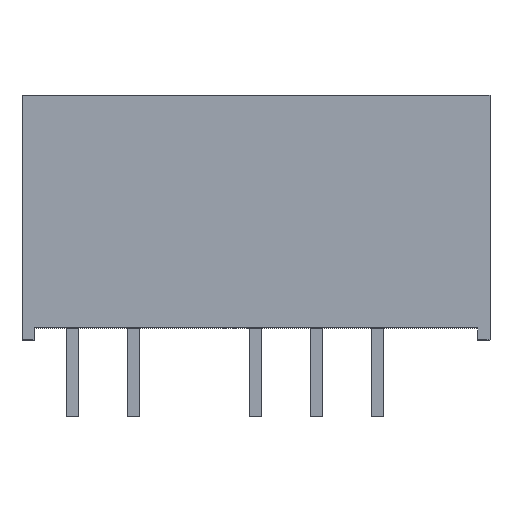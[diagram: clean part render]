
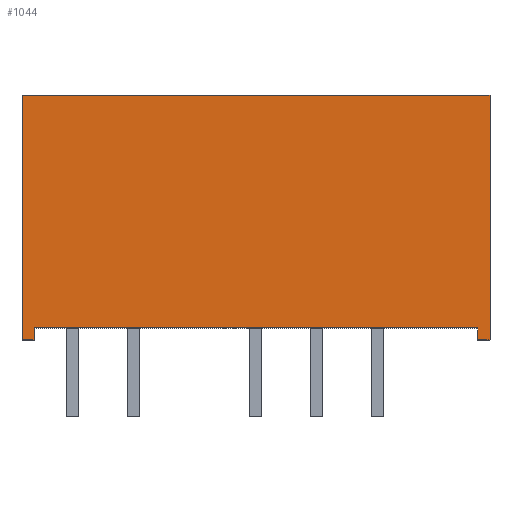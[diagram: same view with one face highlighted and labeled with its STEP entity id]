
A CAD part, top view. The second image highlights one B-rep face of the part: STEP entity #1044.
In plain terms, the highlighted planar face has unit normal (0, 0, 1).
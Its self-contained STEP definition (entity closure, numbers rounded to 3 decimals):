
#34 = LINE ( 'NONE', #604, #315 ) ;
#51 = VECTOR ( 'NONE', #846, 1000. ) ;
#64 = CARTESIAN_POINT ( 'NONE',  ( 9.75, -0.5, 3.55 ) ) ;
#74 = ORIENTED_EDGE ( 'NONE', *, *, #814, .T. ) ;
#81 = ORIENTED_EDGE ( 'NONE', *, *, #305, .T. ) ;
#82 = DIRECTION ( 'NONE',  ( 0., -1., 0. ) ) ;
#92 = ORIENTED_EDGE ( 'NONE', *, *, #1072, .F. ) ;
#113 = VERTEX_POINT ( 'NONE', #195 ) ;
#119 = EDGE_LOOP ( 'NONE', ( #592, #577, #81, #74, #551, #92, #941, #909 ) ) ;
#139 = CARTESIAN_POINT ( 'NONE',  ( -9.25, 0., 3.55 ) ) ;
#144 = EDGE_CURVE ( 'NONE', #454, #686, #34, .T. ) ;
#161 = CARTESIAN_POINT ( 'NONE',  ( -9.75, 0., 3.55 ) ) ;
#190 = LINE ( 'NONE', #369, #51 ) ;
#195 = CARTESIAN_POINT ( 'NONE',  ( 9.25, 0., 3.55 ) ) ;
#197 = VERTEX_POINT ( 'NONE', #435 ) ;
#206 = CARTESIAN_POINT ( 'NONE',  ( -9.25, -0.5, 3.55 ) ) ;
#215 = EDGE_CURVE ( 'NONE', #876, #113, #230, .T. ) ;
#226 = DIRECTION ( 'NONE',  ( 0., 1., 0. ) ) ;
#230 = LINE ( 'NONE', #550, #717 ) ;
#242 = VERTEX_POINT ( 'NONE', #139 ) ;
#305 = EDGE_CURVE ( 'NONE', #541, #242, #960, .T. ) ;
#315 = VECTOR ( 'NONE', #366, 1000. ) ;
#328 = VECTOR ( 'NONE', #1051, 1000. ) ;
#343 = LINE ( 'NONE', #161, #790 ) ;
#359 = FACE_OUTER_BOUND ( 'NONE', #119, .T. ) ;
#366 = DIRECTION ( 'NONE',  ( 0., -1., 0. ) ) ;
#369 = CARTESIAN_POINT ( 'NONE',  ( -9.25, -0.5, 3.55 ) ) ;
#417 = LINE ( 'NONE', #657, #671 ) ;
#427 = CARTESIAN_POINT ( 'NONE',  ( -9.75, 9.7, 3.55 ) ) ;
#435 = CARTESIAN_POINT ( 'NONE',  ( 9.75, -0.5, 3.55 ) ) ;
#443 = CARTESIAN_POINT ( 'NONE',  ( -9.75, 9.7, 3.55 ) ) ;
#454 = VERTEX_POINT ( 'NONE', #427 ) ;
#481 = CARTESIAN_POINT ( 'NONE',  ( 9.25, -0.5, 3.55 ) ) ;
#541 = VERTEX_POINT ( 'NONE', #206 ) ;
#544 = CARTESIAN_POINT ( 'NONE',  ( -9.75, -0.5, 3.55 ) ) ;
#548 = VECTOR ( 'NONE', #549, 1000. ) ;
#549 = DIRECTION ( 'NONE',  ( 1., 0., 0. ) ) ;
#550 = CARTESIAN_POINT ( 'NONE',  ( 9.25, -0.5, 3.55 ) ) ;
#551 = ORIENTED_EDGE ( 'NONE', *, *, #215, .F. ) ;
#560 = VERTEX_POINT ( 'NONE', #950 ) ;
#570 = VECTOR ( 'NONE', #970, 1000. ) ;
#577 = ORIENTED_EDGE ( 'NONE', *, *, #993, .F. ) ;
#592 = ORIENTED_EDGE ( 'NONE', *, *, #144, .T. ) ;
#604 = CARTESIAN_POINT ( 'NONE',  ( -9.75, 9.7, 3.55 ) ) ;
#646 = EDGE_CURVE ( 'NONE', #454, #560, #794, .T. ) ;
#657 = CARTESIAN_POINT ( 'NONE',  ( 9.75, 9.7, 3.55 ) ) ;
#658 = AXIS2_PLACEMENT_3D ( 'NONE', #443, #776, #708 ) ;
#671 = VECTOR ( 'NONE', #82, 1000. ) ;
#686 = VERTEX_POINT ( 'NONE', #544 ) ;
#708 = DIRECTION ( 'NONE',  ( -1., 0., 0. ) ) ;
#717 = VECTOR ( 'NONE', #226, 1000. ) ;
#742 = DIRECTION ( 'NONE',  ( 1., 0., 0. ) ) ;
#751 = EDGE_CURVE ( 'NONE', #560, #197, #417, .T. ) ;
#776 = DIRECTION ( 'NONE',  ( 0., 0., -1. ) ) ;
#790 = VECTOR ( 'NONE', #742, 1000. ) ;
#794 = LINE ( 'NONE', #894, #548 ) ;
#814 = EDGE_CURVE ( 'NONE', #242, #113, #343, .T. ) ;
#846 = DIRECTION ( 'NONE',  ( -1., 0., 0. ) ) ;
#876 = VERTEX_POINT ( 'NONE', #481 ) ;
#894 = CARTESIAN_POINT ( 'NONE',  ( -9.75, 9.7, 3.55 ) ) ;
#909 = ORIENTED_EDGE ( 'NONE', *, *, #646, .F. ) ;
#941 = ORIENTED_EDGE ( 'NONE', *, *, #751, .F. ) ;
#950 = CARTESIAN_POINT ( 'NONE',  ( 9.75, 9.7, 3.55 ) ) ;
#960 = LINE ( 'NONE', #1053, #570 ) ;
#970 = DIRECTION ( 'NONE',  ( 0., 1., 0. ) ) ;
#993 = EDGE_CURVE ( 'NONE', #541, #686, #190, .T. ) ;
#1018 = PLANE ( 'NONE',  #658 ) ;
#1038 = LINE ( 'NONE', #64, #328 ) ;
#1044 = ADVANCED_FACE ( 'NONE', ( #359 ), #1018, .F. ) ;
#1051 = DIRECTION ( 'NONE',  ( -1., 0., 0. ) ) ;
#1053 = CARTESIAN_POINT ( 'NONE',  ( -9.25, -0.5, 3.55 ) ) ;
#1072 = EDGE_CURVE ( 'NONE', #197, #876, #1038, .T. ) ;
